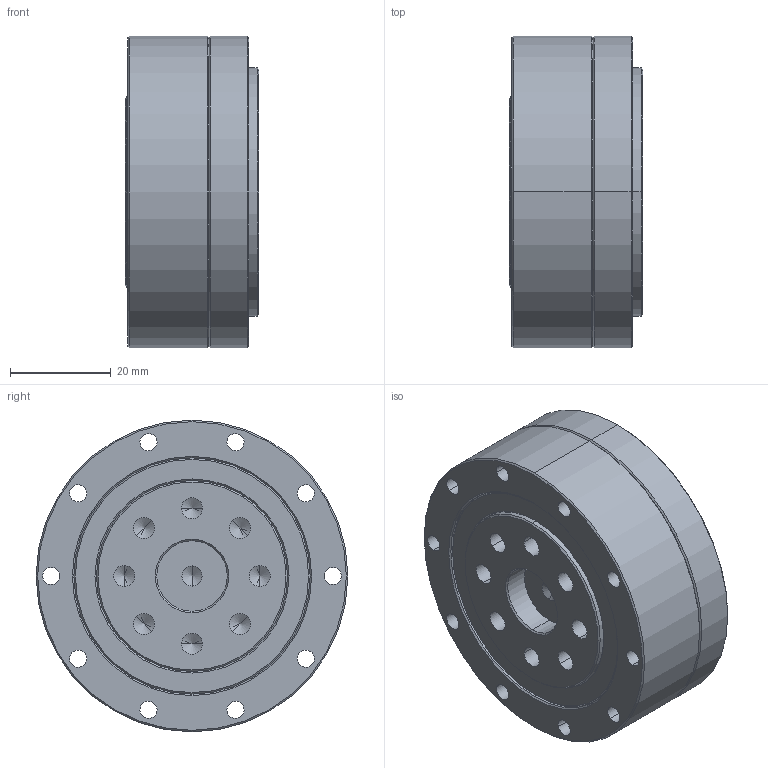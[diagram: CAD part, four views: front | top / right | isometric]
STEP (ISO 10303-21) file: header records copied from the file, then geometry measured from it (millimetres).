
FILE_DESCRIPTION (( 'STEP AP203' ), '1' );
FILE_NAME ('FCD-17-XXX-AJ.STEP', '2019-10-09T01:46:24', ( '' ), ( '' ), 'SwSTEP 2.0', 'SolidWorks 2016', '' );
FILE_SCHEMA (( 'CONFIG_CONTROL_DESIGN' ));
Length unit declared in the file: millimetre
Products named in the file (1): FCD-17-XXX-AJ
Bounding box: 26.5 x 62 x 62 mm (x, y, z)
Volume: 58002.2 mm3; surface area: 45040.8 mm2
Topology: 46 solids, 46 shells, 812 faces, 1950 edges, 1212 vertices
Faces by surface type: cylinder 331, plane 219, cone 134, torus 82, sphere 46
Entity records: 22854 total; most frequent: DIRECTION 4461, CARTESIAN_POINT 3745, ORIENTED_EDGE 3578, AXIS2_PLACEMENT_3D 1859, EDGE_CURVE 1789, VERTEX_POINT 1143, CIRCLE 1046, EDGE_LOOP 976
